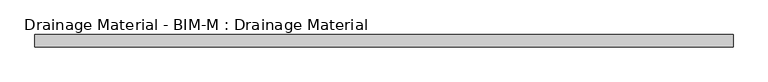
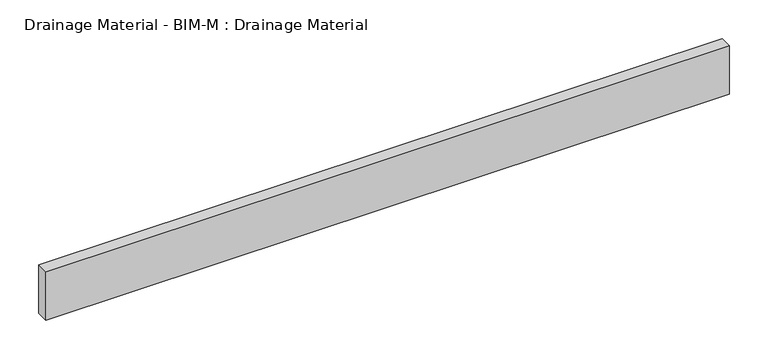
"""IFC4 building model written with IfcOpenShell, lengths in millimetres: proxy geometry, Drainage Material - BIM-M : Drainage Material."""

from ifc_helpers import new_model, si_unit, origin, origin_with_axes, place, context, project, spatial, polyline, outline, extrude, source, transform, mapped, element, save


def drainage_material_bim_m_drainage_material_a13d56aa(model_context):
    return source(origin(), model_context, "Body", "SweptSolid", [
        extrude(outline(polyline([(508.0, 22.225), (508.0, 3.96875), (-508.0, 3.96875), (-508.0, 22.225), (508.0, 22.225)])), origin_with_axes(), (0.0, 0.0, 1.0), 76.2),
    ])


if __name__ == "__main__":
    model = new_model("IFC4")
    model_context = context("Model", 3, world=origin())
    ifc_project = project(units=[si_unit("LENGTHUNIT", "METRE", prefix="MILLI")], contexts=[model_context])
    site = spatial("IfcSite", under=ifc_project)
    building = spatial("IfcBuilding", under=site)
    placement = place(None, origin())
    drainage_material_bim_m_drainage_material_shape = drainage_material_bim_m_drainage_material_a13d56aa(model_context)
    element("IfcBuildingElementProxy", 1, Name="Drainage Material - BIM-M : Drainage Material", ObjectType="Drainage Material - BIM-M : Drainage Material", at=placement, inside=building, context=model_context, shape_type="MappedRepresentation", body=[
        mapped(drainage_material_bim_m_drainage_material_shape, transform((0.0, 0.0, 0.0), x_axis=(1.0, 0.0, 0.0), y_axis=(0.0, 1.0, 0.0), z_axis=(0.0, 0.0, 1.0))),
    ])
    save(model, "model.ifc")
